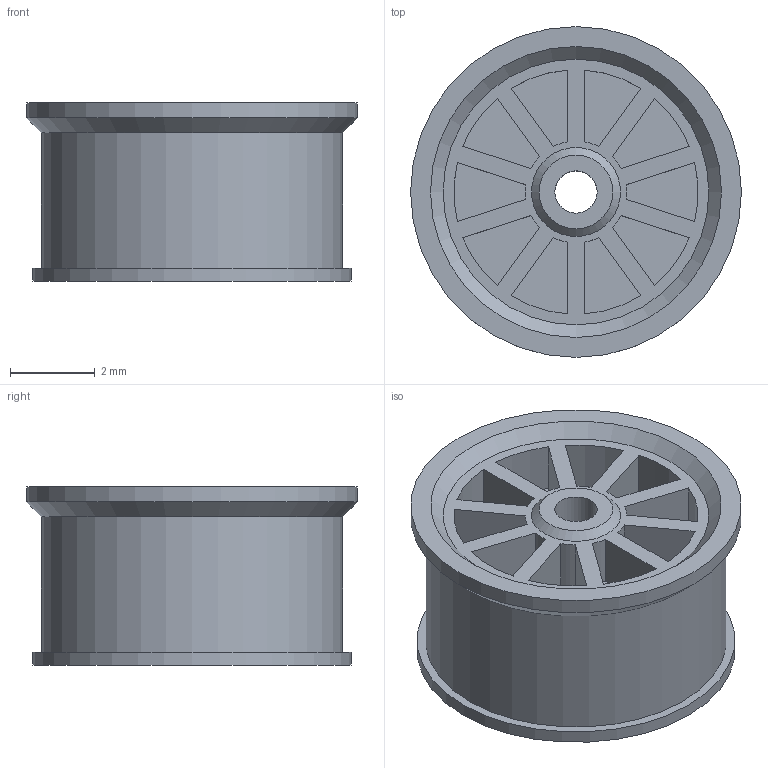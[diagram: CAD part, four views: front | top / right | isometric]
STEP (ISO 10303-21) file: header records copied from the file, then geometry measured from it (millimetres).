
FILE_DESCRIPTION(('Open CASCADE Model'),'2;1');
FILE_NAME('Open CASCADE Shape Model','2026-10-09T16:33:01',('Author'),( 'Open CASCADE'),'Open CASCADE STEP processor 8.0','build123d', 'Unknown');
FILE_SCHEMA(('AUTOMOTIVE_DESIGN { 1 0 10303 214 1 1 1 1 }'));
Length unit declared in the file: millimetre
Products named in the file (1): COMPOUND
Bounding box: 7.8 x 7.8 x 4.2 mm (x, y, z)
Volume: 141.4 mm3; surface area: 271.1 mm2
Topology: 1 solids, 1 shells, 62 faces, 139 edges, 92 vertices
Faces by surface type: plane 35, cylinder 24, cone 3
Full cylindrical faces by diameter (mm): 1 x1, 7.1 x1, 7.5 x1, 7.8 x1
Entity records: 3582 total; most frequent: CARTESIAN_POINT 739, DIRECTION 533, ORIENTED_EDGE 278, PCURVE 278, DEFINITIONAL_REPRESENTATION 278, LINE 274, VECTOR 274, EDGE_CURVE 139
